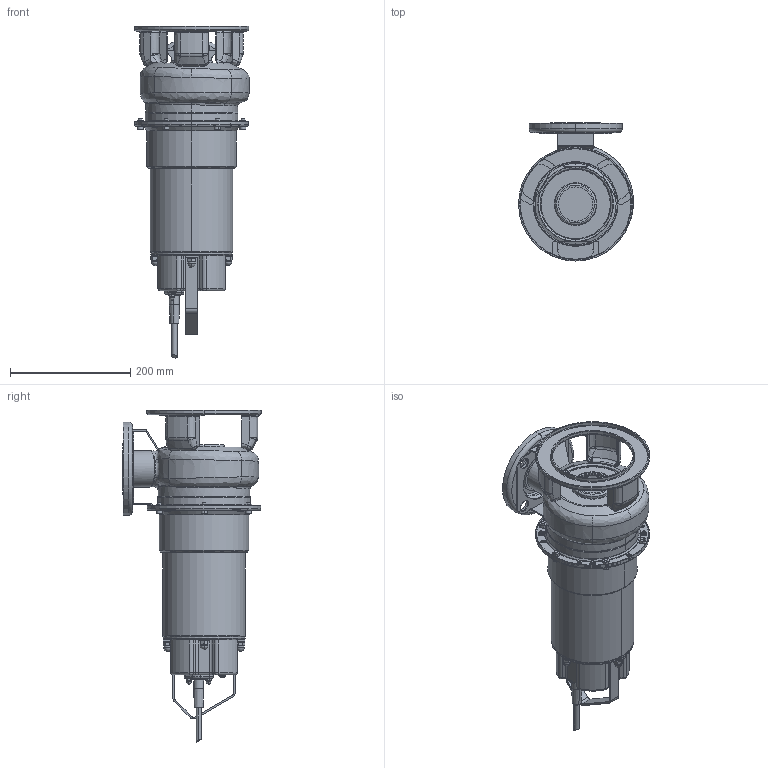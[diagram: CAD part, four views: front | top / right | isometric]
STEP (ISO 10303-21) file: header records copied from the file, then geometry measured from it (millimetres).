
FILE_DESCRIPTION((''),'2;1');
FILE_NAME('DWF_200_ASM','2009-09-28T',('Utente'),('"Ebara Pumps Europe +39.444.706811"'),'PRO/ENGINEER BY PARAMETRIC TECHNOLOGY CORPORATION, 2008400','PRO/ENGINEER BY PARAMETRIC TECHNOLOGY CORPORATION, 2008400','');
FILE_SCHEMA(('AUTOMOTIVE_DESIGN { 1 0 10303 214 1 1 1 1 }'));
Length unit declared in the file: millimetre
Products named in the file (18): 20698; DADO_A_SALDARE_M6; DADO_M5; 62032; 20986; 20985; 20987_ASM; 15032; 72074; CORPO_POMPA_DWF_ASM; CASSA_MOTORE_ALTA_M6X12; COPERCHIO_MOTORE_25081; 60022; 66002_SEMPLICE; 65003_SEMPLICE; DADO_CALOTTA_M5; VITE_TCC_M5X8_UNI7687; DWF_200_ASM
Assembly tree (28 placements, depth 4):
  DWF_200_ASM
    CORPO_POMPA_DWF_ASM
      20698
      DADO_A_SALDARE_M6  x6
      DADO_M5  x4
      62032
      20987_ASM
        20986
        20985
      15032
      72074  x3
    CASSA_MOTORE_ALTA_M6X12
    COPERCHIO_MOTORE_25081
    60022
    66002_SEMPLICE
    65003_SEMPLICE
    DADO_CALOTTA_M5  x2
    VITE_TCC_M5X8_UNI7687
Bounding box: 191.32 x 230 x 552.52 mm (x, y, z)
Volume: 4525264.1 mm3; surface area: 629546.3 mm2
Topology: 26 solids, 29 shells, 1215 faces, 2804 edges, 1702 vertices
Faces by surface type: plane 376, cylinder 365, bspline 178, torus 157, cone 109, sphere 26, extrusion 4
Entity records: 37567 total; most frequent: CARTESIAN_POINT 14503, DIRECTION 4802, ORIENTED_EDGE 4396, EDGE_CURVE 2200, AXIS2_PLACEMENT_3D 2017, VERTEX_POINT 1345, CIRCLE 1109, EDGE_LOOP 1059
